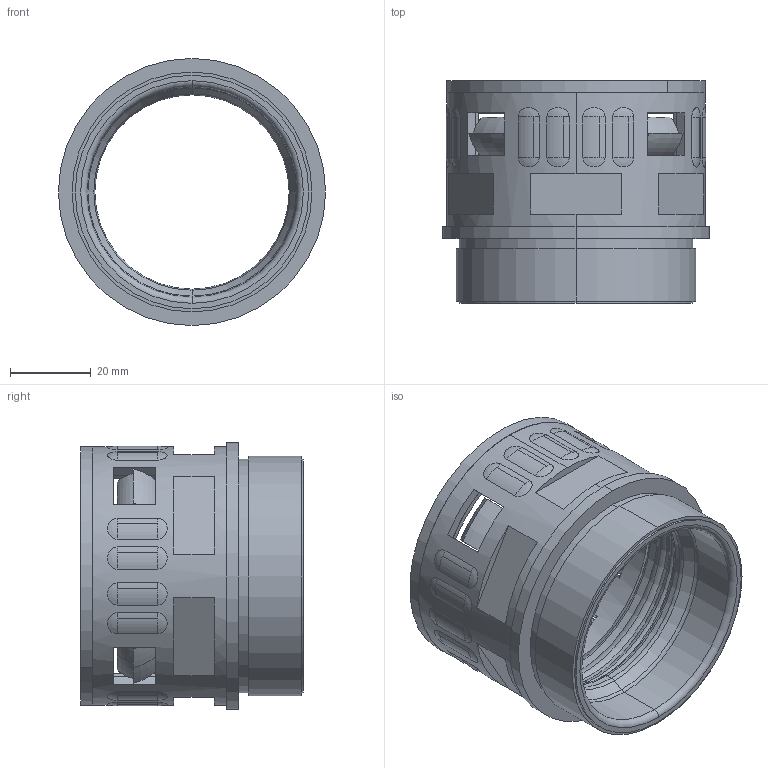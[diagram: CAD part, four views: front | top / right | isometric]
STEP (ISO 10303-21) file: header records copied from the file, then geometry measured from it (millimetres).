
FILE_DESCRIPTION (( 'STEP AP203' ), '1' );
FILE_NAME ('WQG-P48-AD54.5.STEP', '2018-10-09T03:22:46', ( '' ), ( '' ), 'SwSTEP 2.0', 'SolidWorks 2016', '' );
FILE_SCHEMA (( 'CONFIG_CONTROL_DESIGN' ));
Length unit declared in the file: millimetre
Products named in the file (4): WQG-P48-AD54.5-01; GFD-AD54.5; WQG-P48-AD54.5; NSK-AD54.5
Assembly tree (3 placements, depth 2):
  WQG-P48-AD54.5
    WQG-P48-AD54.5-01
    GFD-AD54.5
    NSK-AD54.5
Bounding box: 66 x 55 x 66 mm (x, y, z)
Volume: 41038.2 mm3; surface area: 38936.5 mm2
Topology: 3 solids, 3 shells, 418 faces, 1165 edges, 743 vertices
Faces by surface type: plane 159, cylinder 150, cone 47, sphere 32, torus 30
Entity records: 14620 total; most frequent: CARTESIAN_POINT 3484, DIRECTION 2394, ORIENTED_EDGE 2202, EDGE_CURVE 1101, AXIS2_PLACEMENT_3D 933, VERTEX_POINT 711, LINE 528, VECTOR 528
